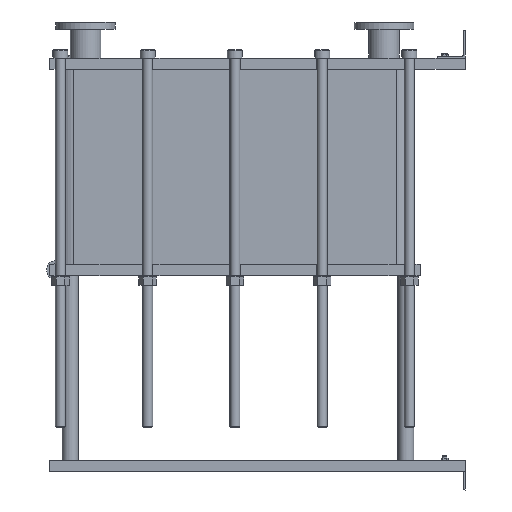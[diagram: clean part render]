
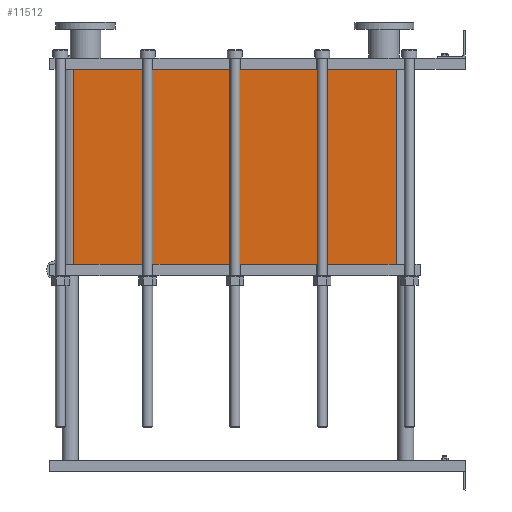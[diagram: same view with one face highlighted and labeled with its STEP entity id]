
A CAD part, left-side view. The second image highlights one B-rep face of the part: STEP entity #11512.
In plain terms, the highlighted planar face has unit normal (-1, 0, 0).
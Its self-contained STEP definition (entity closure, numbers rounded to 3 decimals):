
#1129=LINE('',#23232,#2102);
#1130=LINE('',#23236,#2103);
#1131=LINE('',#23238,#2104);
#1132=LINE('',#23239,#2105);
#2102=VECTOR('',#15887,10.);
#2103=VECTOR('',#15892,10.);
#2104=VECTOR('',#15893,10.);
#2105=VECTOR('',#15894,10.);
#3267=FACE_OUTER_BOUND('',#4093,.T.);
#4093=EDGE_LOOP('',(#10103,#10104,#10105,#10106));
#5642=VERTEX_POINT('',#23229);
#5643=VERTEX_POINT('',#23231);
#5644=VERTEX_POINT('',#23235);
#5645=VERTEX_POINT('',#23237);
#7159=EDGE_CURVE('',#5643,#5642,#1129,.T.);
#7161=EDGE_CURVE('',#5642,#5644,#1130,.T.);
#7162=EDGE_CURVE('',#5645,#5644,#1131,.T.);
#7163=EDGE_CURVE('',#5645,#5643,#1132,.T.);
#10103=ORIENTED_EDGE('',*,*,#7161,.T.);
#10104=ORIENTED_EDGE('',*,*,#7162,.F.);
#10105=ORIENTED_EDGE('',*,*,#7163,.T.);
#10106=ORIENTED_EDGE('',*,*,#7159,.T.);
#10857=PLANE('',#12751);
#11512=ADVANCED_FACE('',(#3267),#10857,.T.);
#12751=AXIS2_PLACEMENT_3D('',#23234,#15890,#15891);
#15887=DIRECTION('',(0.,0.,-1.));
#15890=DIRECTION('center_axis',(-1.,0.,0.));
#15891=DIRECTION('ref_axis',(0.,1.,0.));
#15892=DIRECTION('',(0.,-1.,0.));
#15893=DIRECTION('',(0.,0.,-1.));
#15894=DIRECTION('',(0.,1.,0.));
#23229=CARTESIAN_POINT('',(-200.,1414.,-703.8));
#23231=CARTESIAN_POINT('',(-200.,1414.,0.));
#23232=CARTESIAN_POINT('',(-200.,1414.,0.));
#23234=CARTESIAN_POINT('Origin',(-200.,248.,0.));
#23235=CARTESIAN_POINT('',(-200.,248.,-703.8));
#23236=CARTESIAN_POINT('',(-200.,539.5,-703.8));
#23237=CARTESIAN_POINT('',(-200.,248.,0.));
#23238=CARTESIAN_POINT('',(-200.,248.,0.));
#23239=CARTESIAN_POINT('',(-200.,248.,0.));
